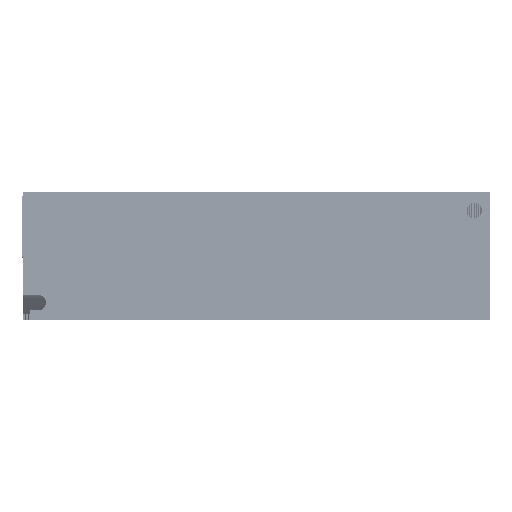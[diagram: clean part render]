
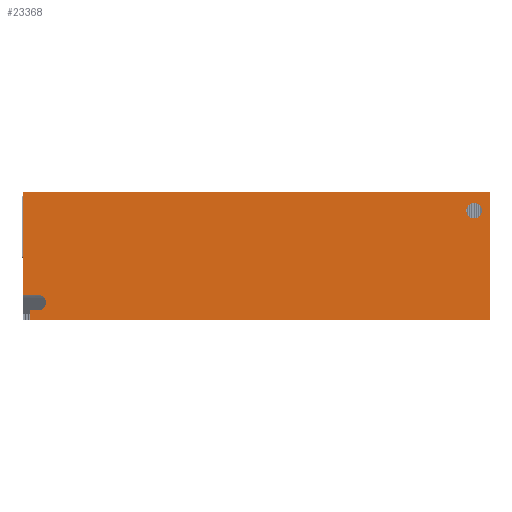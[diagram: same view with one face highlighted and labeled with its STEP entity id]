
A CAD part, top view. The second image highlights one B-rep face of the part: STEP entity #23368.
In plain terms, the highlighted planar face has unit normal (0, 0, 1).
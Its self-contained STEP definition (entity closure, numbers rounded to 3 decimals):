
#1206=DIRECTION('',(1.,0.,0.));
#1207=VECTOR('',#1206,147.5);
#1208=CARTESIAN_POINT('',(-83.949,-9.681,
220.743));
#1209=LINE('',#1208,#1207);
#1210=DIRECTION('',(0.,-1.,0.));
#1211=VECTOR('',#1210,3.);
#1212=CARTESIAN_POINT('',(-83.949,-6.681,
220.743));
#1213=LINE('',#1212,#1211);
#1226=DIRECTION('',(1.,0.,0.));
#1227=VECTOR('',#1226,150.);
#1228=CARTESIAN_POINT('',(-86.449,31.319,220.743));
#1229=LINE('',#1228,#1227);
#1230=DIRECTION('',(0.,-1.,0.));
#1231=VECTOR('',#1230,41.);
#1232=CARTESIAN_POINT('',(63.551,31.319,220.751));
#1233=LINE('',#1232,#1231);
#1234=CARTESIAN_POINT('',(-81.449,-4.181,
220.743));
#1235=DIRECTION('',(0.,0.,1.));
#1236=DIRECTION('',(0.,-1.,0.));
#1237=AXIS2_PLACEMENT_3D('',#1234,#1235,#1236);
#1239=CARTESIAN_POINT('',(-81.449,-4.181,
220.743));
#1240=DIRECTION('',(0.,0.,1.));
#1241=DIRECTION('',(1.,0.,0.));
#1242=AXIS2_PLACEMENT_3D('',#1239,#1240,#1241);
#1244=DIRECTION('',(0.,1.,0.));
#1245=VECTOR('',#1244,33.);
#1246=CARTESIAN_POINT('',(-86.449,-1.681,220.743));
#1247=LINE('',#1246,#1245);
#1248=CARTESIAN_POINT('',(58.551,25.319,220.75));
#1249=DIRECTION('',(0.,0.,1.));
#1250=DIRECTION('',(1.,0.,0.));
#1251=AXIS2_PLACEMENT_3D('',#1248,#1249,#1250);
#1253=CARTESIAN_POINT('',(58.551,25.319,220.75));
#1254=DIRECTION('',(0.,0.,1.));
#1255=DIRECTION('',(-1.,0.,0.));
#1256=AXIS2_PLACEMENT_3D('',#1253,#1254,#1255);
#8751=DIRECTION('',(1.,0.,0.));
#8752=VECTOR('',#8751,5.);
#8753=CARTESIAN_POINT('',(-86.449,-1.681,220.743));
#8754=LINE('',#8753,#8752);
#8771=DIRECTION('',(-1.,0.,0.));
#8772=VECTOR('',#8771,2.5);
#8773=CARTESIAN_POINT('',(-81.449,-6.681,
220.743));
#8774=LINE('',#8773,#8772);
#15645=CARTESIAN_POINT('',(63.551,31.319,220.751));
#15646=VERTEX_POINT('',#15645);
#15647=CARTESIAN_POINT('',(63.551,-9.681,
220.751));
#15648=VERTEX_POINT('',#15647);
#16198=CARTESIAN_POINT('',(-86.449,-1.681,220.743));
#16199=CARTESIAN_POINT('',(-86.449,31.319,220.743));
#16200=VERTEX_POINT('',#16198);
#16201=VERTEX_POINT('',#16199);
#16526=CARTESIAN_POINT('',(61.051,25.319,220.75));
#16527=VERTEX_POINT('',#16526);
#16528=CARTESIAN_POINT('',(56.051,25.319,220.75));
#16529=VERTEX_POINT('',#16528);
#16530=CARTESIAN_POINT('',(-81.449,-1.681,
220.743));
#16531=VERTEX_POINT('',#16530);
#16532=CARTESIAN_POINT('',(-78.949,-4.181,
220.743));
#16533=VERTEX_POINT('',#16532);
#16534=CARTESIAN_POINT('',(-81.449,-6.681,
220.743));
#16535=VERTEX_POINT('',#16534);
#16536=CARTESIAN_POINT('',(-83.949,-6.681,
220.743));
#16537=VERTEX_POINT('',#16536);
#16538=CARTESIAN_POINT('',(-83.949,-9.681,
220.743));
#16539=VERTEX_POINT('',#16538);
#23340=CARTESIAN_POINT('',(-11.449,10.819,
220.747));
#23341=DIRECTION('',(0.,0.,1.));
#23342=DIRECTION('',(-1.,0.,0.));
#23343=AXIS2_PLACEMENT_3D('',#23340,#23341,#23342);
#23344=PLANE('',#23343);
#23346=ORIENTED_EDGE('',*,*,#23345,.T.);
#23347=ORIENTED_EDGE('',*,*,#21809,.T.);
#23348=ORIENTED_EDGE('',*,*,#23321,.F.);
#23349=ORIENTED_EDGE('',*,*,#23331,.F.);
#23351=ORIENTED_EDGE('',*,*,#23350,.F.);
#23353=ORIENTED_EDGE('',*,*,#23352,.T.);
#23355=ORIENTED_EDGE('',*,*,#23354,.T.);
#23357=ORIENTED_EDGE('',*,*,#23356,.F.);
#23359=ORIENTED_EDGE('',*,*,#23358,.T.);
#23360=EDGE_LOOP('',(#23346,#23347,#23348,#23349,#23351,#23353,#23355,#23357,
#23359));
#23361=FACE_OUTER_BOUND('',#23360,.F.);
#23363=ORIENTED_EDGE('',*,*,#23362,.T.);
#23365=ORIENTED_EDGE('',*,*,#23364,.T.);
#23366=EDGE_LOOP('',(#23363,#23365));
#23367=FACE_BOUND('',#23366,.F.);
#23368=ADVANCED_FACE('',(#23361,#23367),#23344,.T.);
#1238=CIRCLE('',#1237,2.5);
#1243=CIRCLE('',#1242,2.5);
#1252=CIRCLE('',#1251,2.5);
#1257=CIRCLE('',#1256,2.5);
#21809=EDGE_CURVE('',#15646,#15648,#1233,.T.);
#23321=EDGE_CURVE('',#16539,#15648,#1209,.T.);
#23331=EDGE_CURVE('',#16537,#16539,#1213,.T.);
#23345=EDGE_CURVE('',#16201,#15646,#1229,.T.);
#23350=EDGE_CURVE('',#16535,#16537,#8774,.T.);
#23352=EDGE_CURVE('',#16535,#16533,#1238,.T.);
#23354=EDGE_CURVE('',#16533,#16531,#1243,.T.);
#23356=EDGE_CURVE('',#16200,#16531,#8754,.T.);
#23358=EDGE_CURVE('',#16200,#16201,#1247,.T.);
#23362=EDGE_CURVE('',#16527,#16529,#1252,.T.);
#23364=EDGE_CURVE('',#16529,#16527,#1257,.T.);
